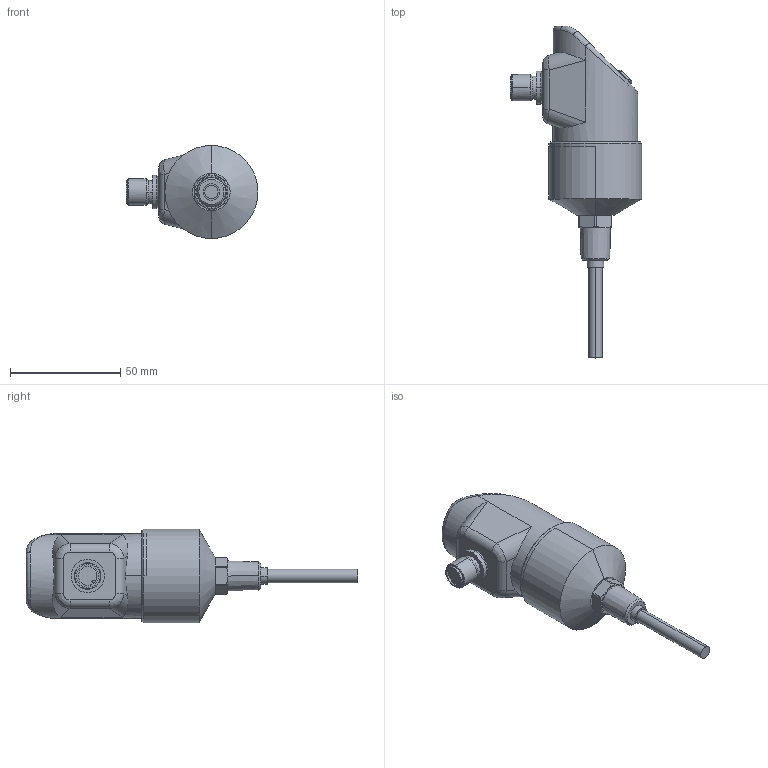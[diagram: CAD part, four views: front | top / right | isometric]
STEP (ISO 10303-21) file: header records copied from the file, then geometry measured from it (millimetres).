
FILE_DESCRIPTION((''),'2;1');
FILE_NAME('837E-DA1BN4A4','2011-04-05T',('i00400514'),('RAND'),'PRO/ENGINEER BY PARAMETRIC TECHNOLOGY CORPORATION, 2009380','PRO/ENGINEER BY PARAMETRIC TECHNOLOGY CORPORATION, 2009380','');
FILE_SCHEMA(('CONFIG_CONTROL_DESIGN'));
Length unit declared in the file: millimetre
Products named in the file (1): 837E-DA1BN4A4
Bounding box: 59.95 x 150.8 x 42.3 mm (x, y, z)
Volume: 103055.7 mm3; surface area: 14981.2 mm2
Topology: 1 solids, 1 shells, 186 faces, 418 edges, 261 vertices
Faces by surface type: cylinder 86, plane 61, cone 18, bspline 15, torus 6
Entity records: 7028 total; most frequent: CARTESIAN_POINT 2828, DIRECTION 896, ORIENTED_EDGE 836, EDGE_CURVE 418, AXIS2_PLACEMENT_3D 367, VERTEX_POINT 261, EDGE_LOOP 213, CIRCLE 196
